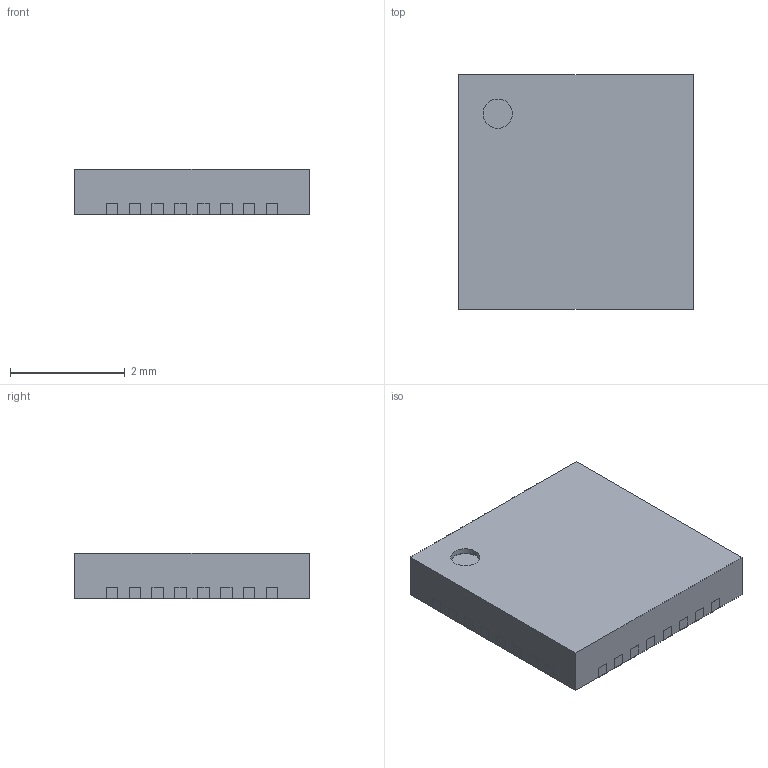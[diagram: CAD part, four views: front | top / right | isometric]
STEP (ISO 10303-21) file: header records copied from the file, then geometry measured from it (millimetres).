
FILE_DESCRIPTION(('Open CASCADE Model'),'2;1');
FILE_NAME('Open CASCADE Shape Model','2022-11-11T17:25:17',('Author'),( 'Open CASCADE'),'Open CASCADE STEP processor 6.8','Open CASCADE 6.8' ,'Unknown');
FILE_SCHEMA(('AUTOMOTIVE_DESIGN { 1 0 10303 214 1 1 1 1 }'));
Length unit declared in the file: millimetre
Products named in the file (7): QFN40P400X400X80_HS-33N.step; Open CASCADE STEP translator 6.8 27.1; Body; Open CASCADE STEP translator 6.8 27.2.1; Thermal_Shape; Pin_Shape; Open CASCADE STEP translator 6.8 27.4.1
Assembly tree (37 placements, depth 3):
  QFN40P400X400X80_HS-33N.step
    Open CASCADE STEP translator 6.8 27.1
    Body
      Open CASCADE STEP translator 6.8 27.2.1
    Thermal_Shape
    Pin_Shape  x32
      Open CASCADE STEP translator 6.8 27.4.1
Bounding box: 4.1 x 4.1 x 0.8 mm (x, y, z)
Volume: 13.4 mm3; surface area: 68.7 mm2
Topology: 34 solids, 35 shells, 464 faces, 927 edges, 533 vertices
Faces by surface type: plane 463, cylinder 1
Full cylindrical faces by diameter (mm): 0.512 x1
Entity records: 1154 total; most frequent: DIRECTION 198, CARTESIAN_POINT 164, ORIENTED_EDGE 117, AXIS2_PLACEMENT_3D 71, EDGE_CURVE 59, LINE 56, VECTOR 56, PRODUCT_DEFINITION_SHAPE 44
